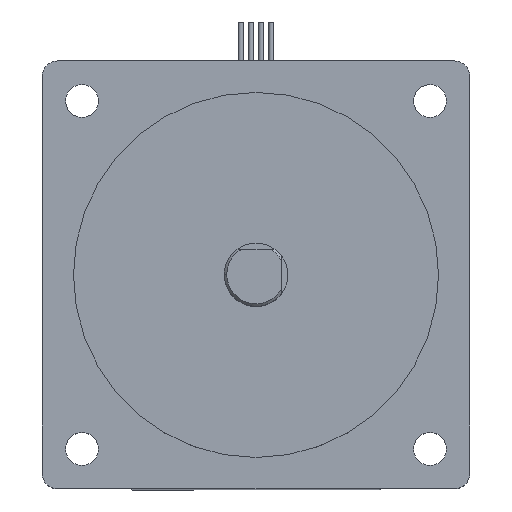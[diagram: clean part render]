
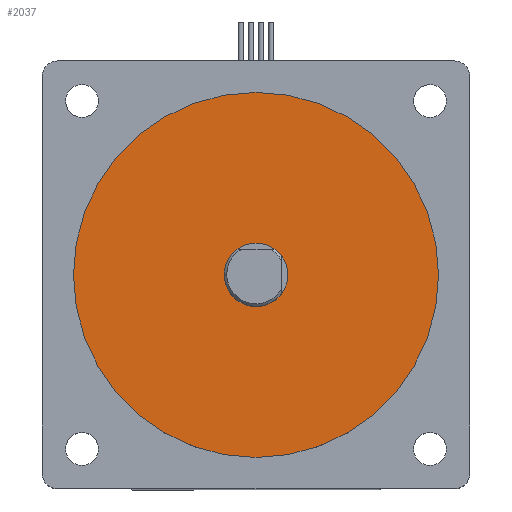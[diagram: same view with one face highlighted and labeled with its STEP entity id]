
A CAD part, top view. The second image highlights one B-rep face of the part: STEP entity #2037.
In plain terms, the highlighted planar face has unit normal (0, 0, 1).
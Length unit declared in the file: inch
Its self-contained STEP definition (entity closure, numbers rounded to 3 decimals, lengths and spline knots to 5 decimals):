
#267=CARTESIAN_POINT('',(-1.4375,0.,5.08));
#268=VERTEX_POINT('',#267);
#284=CARTESIAN_POINT('',(1.4375,0.,5.08));
#285=VERTEX_POINT('',#284);
#292=CARTESIAN_POINT('',(0.0,0.0,5.08));
#293=DIRECTION('',(0.0,0.0,-1.0));
#294=DIRECTION('',(-1.0,0.0,0.0));
#295=AXIS2_PLACEMENT_3D('',#292,#293,#294);
#296=CIRCLE('',#295,1.4375);
#297=EDGE_CURVE('',#285,#268,#296,.T.);
#307=CARTESIAN_POINT('',(-0.25,0.,5.08));
#308=VERTEX_POINT('',#307);
#317=CARTESIAN_POINT('',(0.25,0.,5.08));
#318=VERTEX_POINT('',#317);
#319=CARTESIAN_POINT('',(0.0,0.0,5.08));
#320=DIRECTION('',(0.0,0.0,1.0));
#321=DIRECTION('',(-1.0,0.0,0.0));
#322=AXIS2_PLACEMENT_3D('',#319,#320,#321);
#323=CIRCLE('',#322,0.25);
#324=EDGE_CURVE('',#308,#318,#323,.T.);
#929=CARTESIAN_POINT('',(0.0,0.0,5.08));
#930=DIRECTION('',(0.0,0.0,1.0));
#931=DIRECTION('',(-1.0,0.0,0.0));
#932=AXIS2_PLACEMENT_3D('',#929,#930,#931);
#933=CIRCLE('',#932,0.25);
#934=EDGE_CURVE('',#318,#308,#933,.T.);
#2018=CARTESIAN_POINT('',(0.0,0.0,5.08));
#2019=DIRECTION('',(0.0,0.0,-1.0));
#2020=DIRECTION('',(-1.0,0.0,0.0));
#2021=AXIS2_PLACEMENT_3D('',#2018,#2019,#2020);
#2022=PLANE('',#2021);
#2023=ORIENTED_EDGE('',*,*,#297,.F.);
#2024=CARTESIAN_POINT('',(0.0,0.0,5.08));
#2025=DIRECTION('',(0.0,0.0,-1.0));
#2026=DIRECTION('',(-1.0,0.0,0.0));
#2027=AXIS2_PLACEMENT_3D('',#2024,#2025,#2026);
#2028=CIRCLE('',#2027,1.4375);
#2029=EDGE_CURVE('',#268,#285,#2028,.T.);
#2030=ORIENTED_EDGE('',*,*,#2029,.F.);
#2031=EDGE_LOOP('',(#2023,#2030));
#2032=FACE_OUTER_BOUND('',#2031,.T.);
#2033=ORIENTED_EDGE('',*,*,#934,.F.);
#2034=ORIENTED_EDGE('',*,*,#324,.F.);
#2035=EDGE_LOOP('',(#2033,#2034));
#2036=FACE_BOUND('',#2035,.T.);
#2037=ADVANCED_FACE('',(#2032,#2036),#2022,.F.);
